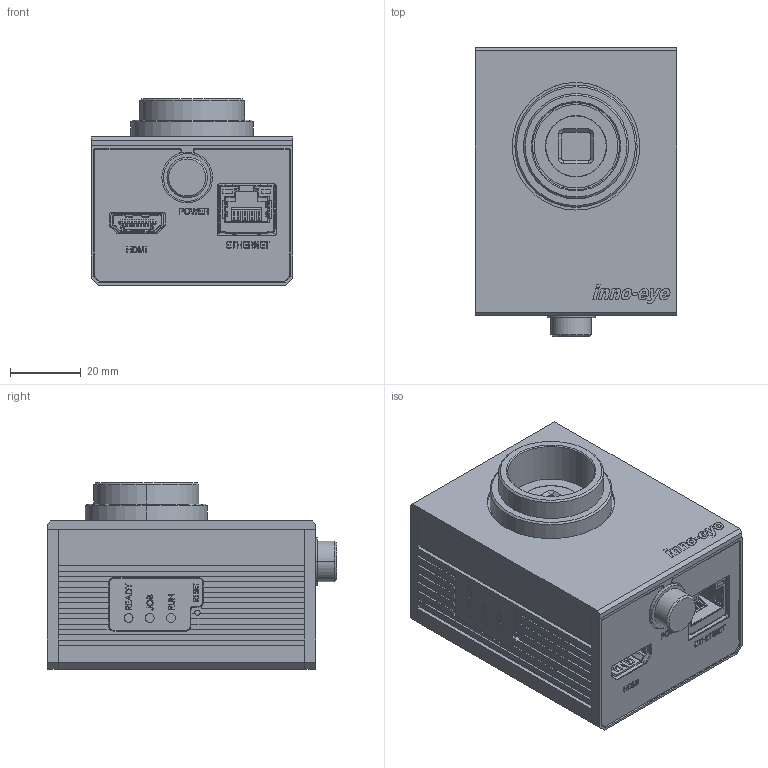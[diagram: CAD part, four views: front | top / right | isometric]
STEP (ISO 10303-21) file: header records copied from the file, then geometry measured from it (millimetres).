
FILE_DESCRIPTION (( 'STEP AP203' ), '1' );
FILE_NAME ('ST4-007F (2020.03.06-2).STEP', '2020-03-06T07:31:23', ( '' ), ( '' ), 'SwSTEP 2.0', 'SolidWorks 2016', '' );
FILE_SCHEMA (( 'CONFIG_CONTROL_DESIGN' ));
Products named in the file (1): ST4-007F (2020.03.06-2)
Bounding box: 57 x 81.9 x 52.76 mm (x, y, z)
Volume: 177646.9 mm3; surface area: 60466.6 mm2
Topology: 83 solids, 83 shells, 3750 faces, 10482 edges, 6897 vertices
Faces by surface type: plane 2352, bspline 868, cylinder 518, cone 12
Entity records: 144890 total; most frequent: CARTESIAN_POINT 54696, ORIENTED_EDGE 20964, DIRECTION 14688, EDGE_CURVE 10482, LINE 7476, VECTOR 7476, VERTEX_POINT 6897, EDGE_LOOP 3943
